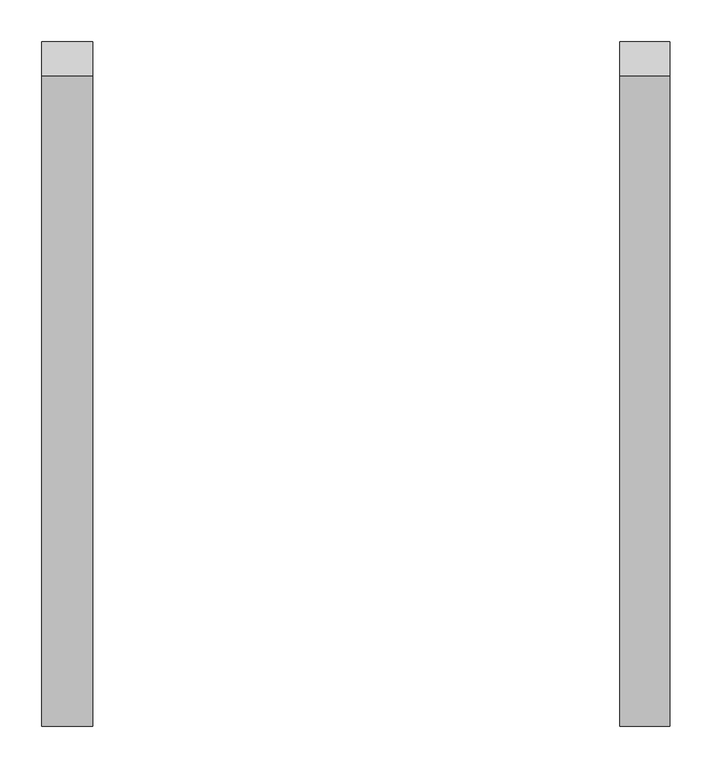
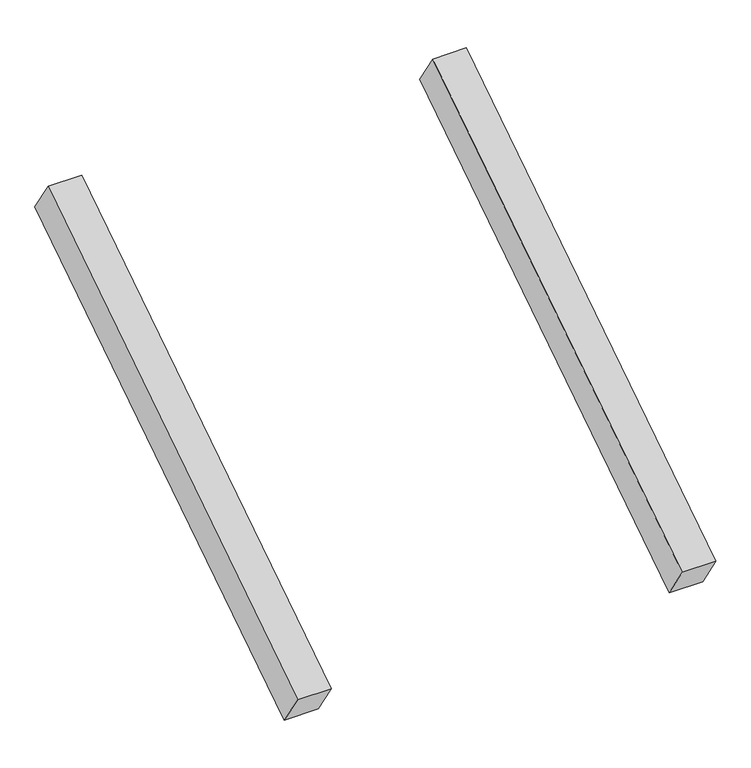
"""IFC4 building model written with IfcOpenShell, lengths in millimetres: proxy geometry, Брус 5 : Брус 5."""

from ifc_helpers import new_model, si_unit, frame, origin, place, context, project, spatial, polyline, outline, extrude, source, transform, mapped, element, save


def generic_models_37c17f33(model_context):
    return source(origin(), model_context, "Body", "SweptSolid", [
        extrude(outline(polyline([(0.0, -923.8960309), (0.0, 0.0), (60.4472988, 0.0), (60.4472988, -923.8960309), (0.0, -923.8960309)])), frame((5665.4496214, 19607.0362477, 5.479077), z_axis=(0.0, -0.544639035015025, 0.8386705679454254), x_axis=(-1.0, 0.0, 0.0)), (0.0, 0.0, 1.0), 75.0),
        extrude(outline(polyline([(0.0, -923.8960309), (0.0, 0.0), (59.8212524, 0.0), (59.8212524, -923.8960309), (0.0, -923.8960309)])), frame((6354.4908738, 19607.0362477, 5.479077), z_axis=(0.0, -0.544639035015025, 0.8386705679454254), x_axis=(-1.0, 0.0, 0.0)), (0.0, 0.0, 1.0), 75.0),
    ])


if __name__ == "__main__":
    model = new_model("IFC4")
    model_context = context("Model", 3, world=origin())
    ifc_project = project(units=[si_unit("LENGTHUNIT", "METRE", prefix="MILLI")], contexts=[model_context])
    site = spatial("IfcSite", under=ifc_project)
    building = spatial("IfcBuilding", under=site)
    placement = place(None, origin())
    generic_models_shape = generic_models_37c17f33(model_context)
    element("IfcBuildingElementProxy", 1, Name="Брус 5 : Брус 5", ObjectType="Брус 5 : Брус 5", at=placement, inside=building, context=model_context, shape_type="MappedRepresentation", body=[
        mapped(generic_models_shape, transform((0.0, 0.0, 0.0), x_axis=(1.0, 0.0, 0.0), y_axis=(0.0, 1.0, 0.0), z_axis=(0.0, 0.0, 1.0))),
    ])
    save(model, "model.ifc")
